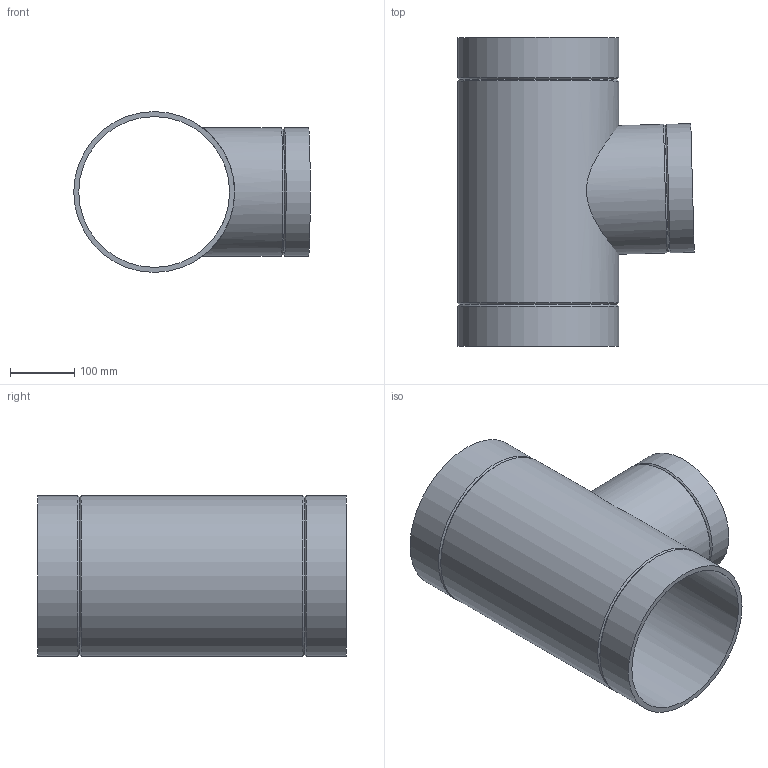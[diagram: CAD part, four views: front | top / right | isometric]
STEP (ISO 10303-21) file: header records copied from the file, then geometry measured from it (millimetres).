
FILE_DESCRIPTION(/* description */ (''),/* implementation_level */ '2;1');
FILE_NAME(/* name */ 'Z:\Geberit\Export\NewStep\371196.stp',/* time_stamp */ '2014-04-02T08:05:23+02:00',/* author */ ('nelson'),/* organization */ (''),/* preprocessor_version */ 'ST-DEVELOPER v15.2',/* originating_system */ 'Autodesk Inventor 2014',/* authorisation */ '');
FILE_SCHEMA (('AUTOMOTIVE_DESIGN { 1 0 10303 214 3 1 1 }'));
Length unit declared in the file: millimetre
Products named in the file (1): 371196
Bounding box: 367.54 x 480 x 250 mm (x, y, z)
Volume: 3112079.4 mm3; surface area: 857223.1 mm2
Topology: 1 solids, 1 shells, 16 faces, 37 edges, 23 vertices
Faces by surface type: cylinder 7, cone 6, plane 3
Full cylindrical faces by diameter (mm): 187.6 x1, 200 x2, 234.4 x1, 250 x3
Entity records: 519 total; most frequent: CARTESIAN_POINT 197, DIRECTION 64, EDGE_LOOP 34, ORIENTED_EDGE 34, AXIS2_PLACEMENT_3D 32, FACE_BOUND 22, VERTEX_POINT 17, EDGE_CURVE 17
